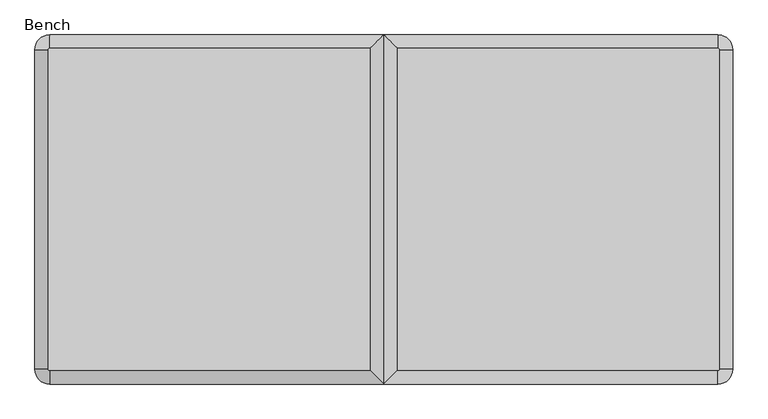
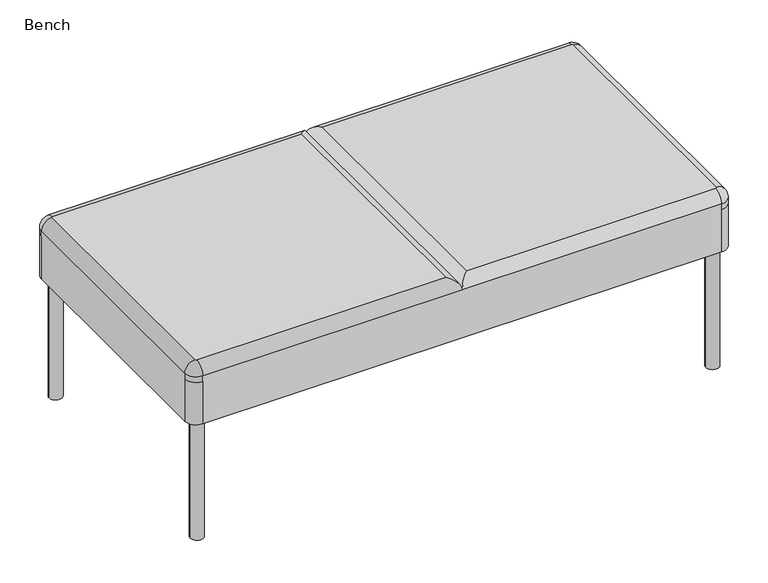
"""IFC4 building model written with IfcOpenShell, lengths in millimetres: furniture geometry, Noora : Bench."""

from ifc_helpers import new_model, si_unit, point, frame, frame_2d, origin, origin_with_axes, place, context, project, spatial, circle_curve, ellipse_curve, trimmed, segment, composite_curve, outline, extrude, source, transform, mapped, element, save
from ifc_brep_helpers import plane_surface, cylinder_surface, revolved_surface, advanced_brep


def bench_e48bfbdb(model_context):
    return source(origin(), model_context, "Body", "SolidModel", [
        advanced_brep(
        [(24.0, 26.0, 431.0), (26.0, 24.0, 431.0), (596.0, 24.0, 431.0), (596.0, 596.0, 431.0), (26.0, 596.0, 431.0), (24.0, 594.0, 431.0), (0.0, 26.0, 407.0), (26.0, 0.0, 407.0), (620.0, 0.0, 407.0), (620.0, 620.0, 407.0), (26.0, 620.0, 407.0), (0.0, 594.0, 407.0), (1214.0, 620.0, 291.0), (1240.0, 594.0, 291.0), (1240.0, 26.0, 291.0), (1214.0, 0.0, 291.0), (26.0, 0.0, 291.0), (0.0, 26.0, 291.0), (0.0, 594.0, 291.0), (26.0, 620.0, 291.0), (0.0, 594.0, 393.0), (26.0, 620.0, 393.0), (0.0, 26.0, 393.0), (26.0, 0.0, 393.0), (1240.0, 26.0, 393.0), (1214.0, 0.0, 393.0), (1214.0, 620.0, 393.0), (1240.0, 594.0, 393.0), (1214.0, 24.0, 431.0), (1216.0, 26.0, 431.0), (1216.0, 594.0, 431.0), (1214.0, 596.0, 431.0), (644.0, 596.0, 431.0), (644.0, 24.0, 431.0), (1240.0, 26.0, 407.0), (1214.0, 0.0, 407.0), (1214.0, 620.0, 407.0), (1240.0, 594.0, 407.0)],
        [
            (0, 1, circle_curve(frame((26.0, 26.0, 431.0), z_axis=(0.0, 0.0, 1.0), x_axis=(-1.0, 0.0, 0.0)), 2.0)),
            (1, 2),
            (2, 3),
            (3, 4),
            (4, 5, circle_curve(frame((26.0, 594.0, 431.0), z_axis=(0.0, 0.0, 1.0), x_axis=(0.0, 1.0, 0.0)), 2.0)),
            (5, 0),
            (6, 7, circle_curve(frame((26.0, 26.0, 407.0), z_axis=(0.0, 0.0, 1.0), x_axis=(-1.0, 0.0, 0.0)), 26.0)),
            (7, 1, circle_curve(frame((26.0, 24.0, 407.0), z_axis=(-1.0, 0.0, 0.0), x_axis=(0.0, 1.0, 0.0)), 24.0)),
            (0, 6, circle_curve(frame((24.0, 26.0, 407.0), z_axis=(0.0, -1.0, 0.0), x_axis=(1.0, 0.0, 0.0)), 24.0)),
            (7, 8),
            (8, 2, ellipse_curve(frame((596.0, 24.0, 407.0), z_axis=(-0.7071067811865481, -0.7071067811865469, 0.0), x_axis=(-0.7071067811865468, 0.7071067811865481, 0.0)), 33.9411255, 24.0)),
            (8, 9),
            (9, 3, ellipse_curve(frame((596.0, 596.0, 407.0), z_axis=(0.7071067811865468, -0.7071067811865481, 0.0), x_axis=(-0.7071067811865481, -0.7071067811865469, 0.0)), 33.9411255, 24.0)),
            (9, 10),
            (10, 4, circle_curve(frame((26.0, 596.0, 407.0), z_axis=(1.0, 0.0, 0.0), x_axis=(0.0, -1.0, 0.0)), 24.0)),
            (10, 11, circle_curve(frame((26.0, 594.0, 407.0), z_axis=(0.0, 0.0, 1.0), x_axis=(0.0, 1.0, 0.0)), 26.0)),
            (11, 5, circle_curve(frame((24.0, 594.0, 407.0), z_axis=(0.0, 1.0, 0.0), x_axis=(1.0, 0.0, 0.0)), 24.0)),
            (11, 6),
            (12, 13, circle_curve(frame((1214.0, 594.0, 291.0), z_axis=(0.0, 0.0, -1.0), x_axis=(1.0, 0.0, 0.0)), 26.0)),
            (13, 14),
            (14, 15, circle_curve(frame((1214.0, 26.0, 291.0), z_axis=(0.0, 0.0, -1.0), x_axis=(1.0, 0.0, 0.0)), 26.0)),
            (15, 16),
            (16, 17, circle_curve(frame((26.0, 26.0, 291.0), z_axis=(0.0, 0.0, -1.0), x_axis=(1.0, 0.0, 0.0)), 26.0)),
            (17, 18),
            (18, 19, circle_curve(frame((26.0, 594.0, 291.0), z_axis=(0.0, 0.0, -1.0), x_axis=(1.0, 0.0, 0.0)), 26.0)),
            (19, 12),
            (18, 20),
            (20, 21, circle_curve(frame((26.0, 594.0, 393.0), z_axis=(0.0, 0.0, -1.0), x_axis=(1.0, 0.0, 0.0)), 26.0)),
            (21, 19),
            (17, 22),
            (22, 6),
            (11, 20),
            (16, 23),
            (23, 22, circle_curve(frame((26.0, 26.0, 393.0), z_axis=(0.0, 0.0, -1.0), x_axis=(1.0, 0.0, 0.0)), 26.0)),
            (14, 24),
            (24, 25, circle_curve(frame((1214.0, 26.0, 393.0), z_axis=(0.0, 0.0, -1.0), x_axis=(1.0, 0.0, 0.0)), 26.0)),
            (25, 15),
            (12, 26),
            (26, 27, circle_curve(frame((1214.0, 594.0, 393.0), z_axis=(0.0, 0.0, -1.0), x_axis=(1.0, 0.0, 0.0)), 26.0)),
            (27, 13),
            (28, 29, circle_curve(frame((1214.0, 26.0, 431.0), z_axis=(0.0, 0.0, 1.0), x_axis=(1.0, 0.0, 0.0)), 2.0)),
            (29, 30),
            (30, 31, circle_curve(frame((1214.0, 594.0, 431.0), z_axis=(0.0, 0.0, 1.0), x_axis=(0.0, 1.0, 0.0)), 2.0)),
            (31, 32),
            (32, 33),
            (33, 28),
            (24, 34),
            (34, 35, circle_curve(frame((1214.0, 26.0, 407.0), z_axis=(0.0, 0.0, -1.0), x_axis=(1.0, 0.0, 0.0)), 26.0)),
            (35, 25),
            (34, 29, circle_curve(frame((1216.0, 26.0, 407.0), z_axis=(0.0, -1.0, 0.0), x_axis=(-1.0, 0.0, 0.0)), 24.0)),
            (28, 35, circle_curve(frame((1214.0, 24.0, 407.0), z_axis=(1.0, 0.0, 0.0), x_axis=(0.0, 1.0, 0.0)), 24.0)),
            (35, 8),
            (7, 23),
            (33, 8, ellipse_curve(frame((644.0, 24.0, 407.0), z_axis=(0.7071067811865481, -0.7071067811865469, 0.0), x_axis=(0.7071067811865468, 0.7071067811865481, 0.0)), 33.9411255, 24.0)),
            (32, 9, ellipse_curve(frame((644.0, 596.0, 407.0), z_axis=(-0.7071067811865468, -0.7071067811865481, 0.0), x_axis=(0.7071067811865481, -0.7071067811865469, 0.0)), 33.9411255, 24.0)),
            (9, 36),
            (36, 26),
            (21, 10),
            (31, 36, circle_curve(frame((1214.0, 596.0, 407.0), z_axis=(-1.0, 0.0, 0.0), x_axis=(0.0, -1.0, 0.0)), 24.0)),
            (36, 37, circle_curve(frame((1214.0, 594.0, 407.0), z_axis=(0.0, 0.0, -1.0), x_axis=(0.0, 1.0, 0.0)), 26.0)),
            (37, 27),
            (30, 37, circle_curve(frame((1216.0, 594.0, 407.0), z_axis=(0.0, 1.0, 0.0), x_axis=(-1.0, 0.0, 0.0)), 24.0)),
            (37, 34),
        ],
        [
            plane_surface(frame((24.0, 40.0, 431.0), z_axis=(0.0, 0.0, 1.0), x_axis=(0.0, -1.0, 0.0))),
            revolved_surface(trimmed(ellipse_curve(frame((24.0, 26.0, 407.0), z_axis=(0.0, 1.0, 0.0), x_axis=(1.0, 0.0, 0.0)), 24.0, 24.0), [point((0.0, 26.0, 407.0))], [point((24.0, 26.0, 431.0))], True, "CARTESIAN"), (26.0, 26.0, 393.0), (0.0, 0.0, 1.0)),
            cylinder_surface(frame((26.0, 24.0, 407.0), z_axis=(-1.0, 0.0, 0.0), x_axis=(0.0, 1.0, 0.0)), 24.0),
            cylinder_surface(frame((596.0, 0.0, 407.0), z_axis=(0.0, -1.0, 0.0), x_axis=(-1.0, 0.0, 0.0)), 24.0),
            cylinder_surface(frame((620.0, 596.0, 407.0), z_axis=(1.0, 0.0, 0.0), x_axis=(0.0, -1.0, 0.0)), 24.0),
            revolved_surface(trimmed(ellipse_curve(frame((26.0, 596.0, 407.0), z_axis=(1.0, 0.0, 0.0), x_axis=(0.0, -1.0, 0.0)), 24.0, 24.0), [point((26.0, 620.0, 407.0))], [point((26.0, 596.0, 431.0))], True, "CARTESIAN"), (26.0, 594.0, 393.0), (0.0, 0.0, 1.0)),
            cylinder_surface(frame((24.0, 594.0, 407.0), z_axis=(0.0, 1.0, 0.0), x_axis=(1.0, 0.0, 0.0)), 24.0),
            plane_surface(frame((42.5804246, 620.0, 291.0), z_axis=(0.0, 0.0, -1.0), x_axis=(1.0, 0.0, 0.0))),
            cylinder_surface(frame((26.0, 594.0, 291.0), z_axis=(0.0, 0.0, 1.0), x_axis=(1.0, 0.0, 0.0)), 26.0),
            plane_surface(frame((0.0, 594.0, 393.0), z_axis=(-1.0, 0.0, 0.0), x_axis=(0.0, 0.0, -1.0))),
            cylinder_surface(frame((26.0, 26.0, 291.0), z_axis=(0.0, 0.0, 1.0), x_axis=(1.0, 0.0, 0.0)), 26.0),
            cylinder_surface(frame((1214.0, 26.0, 291.0), z_axis=(0.0, 0.0, 1.0), x_axis=(1.0, 0.0, 0.0)), 26.0),
            cylinder_surface(frame((1214.0, 594.0, 291.0), z_axis=(0.0, 0.0, 1.0), x_axis=(1.0, 0.0, 0.0)), 26.0),
            plane_surface(frame((1214.0, 596.0, 431.0), z_axis=(0.0, 0.0, 1.0), x_axis=(-1.0, 0.0, 0.0))),
            cylinder_surface(frame((1214.0, 26.0, 393.0), z_axis=(0.0, 0.0, -1.0), x_axis=(1.0, 0.0, 0.0)), 26.0),
            revolved_surface(trimmed(ellipse_curve(frame((1216.0, 26.0, 407.0), z_axis=(0.0, 1.0, 0.0), x_axis=(-1.0, 0.0, 0.0)), 24.0, 24.0), [point((1216.0, 26.0, 431.0))], [point((1240.0, 26.0, 407.0))], True, "CARTESIAN"), (1214.0, 26.0, 393.0), (0.0, 0.0, -1.0)),
            plane_surface(frame((1214.0, 0.0, 407.0), z_axis=(0.0, -1.0, 0.0), x_axis=(-1.0, 0.0, 0.0))),
            cylinder_surface(frame((1214.0, 24.0, 407.0), z_axis=(1.0, 0.0, 0.0), x_axis=(0.0, 1.0, 0.0)), 24.0),
            cylinder_surface(frame((644.0, 0.0, 407.0), z_axis=(0.0, -1.0, 0.0), x_axis=(1.0, 0.0, 0.0)), 24.0),
            plane_surface(frame((620.0, 620.0, 407.0), z_axis=(0.0, 1.0, 0.0), x_axis=(1.0, 0.0, 0.0))),
            cylinder_surface(frame((620.0, 596.0, 407.0), z_axis=(-1.0, 0.0, 0.0), x_axis=(0.0, -1.0, 0.0)), 24.0),
            cylinder_surface(frame((1214.0, 594.0, 393.0), z_axis=(0.0, 0.0, -1.0), x_axis=(0.0, 1.0, 0.0)), 26.0),
            revolved_surface(trimmed(ellipse_curve(frame((1214.0, 596.0, 407.0), z_axis=(-1.0, 0.0, 0.0), x_axis=(0.0, -1.0, 0.0)), 24.0, 24.0), [point((1214.0, 596.0, 431.0))], [point((1214.0, 620.0, 407.0))], True, "CARTESIAN"), (1214.0, 594.0, 393.0), (0.0, 0.0, -1.0)),
            plane_surface(frame((1240.0, 594.0, 407.0), z_axis=(1.0, 0.0, 0.0), x_axis=(0.0, -1.0, 0.0))),
            cylinder_surface(frame((1216.0, 594.0, 407.0), z_axis=(0.0, 1.0, 0.0), x_axis=(-1.0, 0.0, 0.0)), 24.0),
            cylinder_surface(frame((26.0, 26.0, 393.0), z_axis=(0.0, 0.0, 1.0), x_axis=(-1.0, 0.0, 0.0)), 26.0),
            cylinder_surface(frame((26.0, 594.0, 393.0), z_axis=(0.0, 0.0, 1.0), x_axis=(0.0, 1.0, 0.0)), 26.0),
        ],
        [
            (0, [[1, 2, 3, 4, 5, 6]]),
            (1, [[7, 8, -1, 9]]),
            (2, [[-8, 10, 11, -2]]),
            (3, [[-11, 12, 13, -3]]),
            (4, [[-13, 14, 15, -4]]),
            (5, [[-15, 16, 17, -5]]),
            (6, [[-9, -6, -17, 18]]),
            (7, [[19, 20, 21, 22, 23, 24, 25, 26]]),
            (8, [[-25, 27, 28, 29]]),
            (9, [[-24, 30, 31, -18, 32, -27]]),
            (10, [[-23, 33, 34, -30]]),
            (11, [[-21, 35, 36, 37]]),
            (12, [[-19, 38, 39, 40]]),
            (13, [[41, 42, 43, 44, 45, 46]]),
            (14, [[47, 48, 49, -36]]),
            (15, [[-48, 50, -41, 51]]),
            (16, [[-49, 52, -10, 53, -33, -22, -37]]),
            (17, [[-51, -46, 54, -52]]),
            (18, [[-54, -45, 55, -12]]),
            (19, [[56, 57, -38, -26, -29, 58, -14]]),
            (20, [[-55, -44, 59, -56]]),
            (21, [[-57, 60, 61, -39]]),
            (22, [[-59, -43, 62, -60]]),
            (23, [[-47, -35, -20, -40, -61, 63]]),
            (24, [[-50, -63, -62, -42]]),
            (25, [[-7, -31, -34, -53]]),
            (26, [[-58, -28, -32, -16]]),
        ],
    ),
        extrude(outline(composite_curve([segment(trimmed(circle_curve(frame_2d((30.0, 590.0)), 15.0), [point((15.0, 590.0))], [point((45.0, 590.0))], False, "CARTESIAN"), True, "CONTINUOUS"), segment(trimmed(circle_curve(frame_2d((30.0, 590.0)), 15.0), [point((45.0, 590.0))], [point((15.0, 590.0))], False, "CARTESIAN"), True, "CONTINUOUS")], self_intersect=False)), origin_with_axes(), (0.0, 0.0, 1.0), 290.0),
        extrude(outline(composite_curve([segment(trimmed(circle_curve(frame_2d((30.0, 30.0)), 15.0), [point((15.0, 30.0))], [point((45.0, 30.0))], False, "CARTESIAN"), True, "CONTINUOUS"), segment(trimmed(circle_curve(frame_2d((30.0, 30.0)), 15.0), [point((45.0, 30.0))], [point((15.0, 30.0))], False, "CARTESIAN"), True, "CONTINUOUS")], self_intersect=False)), origin_with_axes(), (0.0, 0.0, 1.0), 290.0),
        extrude(outline(composite_curve([segment(trimmed(circle_curve(frame_2d((1210.0, 30.0)), 15.0), [point((1195.0, 30.0))], [point((1225.0, 30.0))], False, "CARTESIAN"), True, "CONTINUOUS"), segment(trimmed(circle_curve(frame_2d((1210.0, 30.0)), 15.0), [point((1225.0, 30.0))], [point((1195.0, 30.0))], False, "CARTESIAN"), True, "CONTINUOUS")], self_intersect=False)), origin_with_axes(), (0.0, 0.0, 1.0), 290.0),
        extrude(outline(composite_curve([segment(trimmed(circle_curve(frame_2d((1210.0, 590.0)), 15.0), [point((1195.0, 590.0))], [point((1225.0, 590.0))], False, "CARTESIAN"), True, "CONTINUOUS"), segment(trimmed(circle_curve(frame_2d((1210.0, 590.0)), 15.0), [point((1225.0, 590.0))], [point((1195.0, 590.0))], False, "CARTESIAN"), True, "CONTINUOUS")], self_intersect=False)), origin_with_axes(), (0.0, 0.0, 1.0), 290.0),
    ])


if __name__ == "__main__":
    model = new_model("IFC4")
    model_context = context("Model", 3, world=origin())
    ifc_project = project(units=[si_unit("LENGTHUNIT", "METRE", prefix="MILLI")], contexts=[model_context])
    site = spatial("IfcSite", under=ifc_project)
    building = spatial("IfcBuilding", under=site)
    placement = place(None, origin())
    bench_shape = bench_e48bfbdb(model_context)
    element("IfcFurniture", 1, ObjectType="Noora : Bench", at=placement, inside=building, context=model_context, shape_type="MappedRepresentation", body=[
        mapped(bench_shape, transform((0.0, 0.0, 0.0), x_axis=(1.0, 0.0, 0.0), y_axis=(0.0, 1.0, 0.0), z_axis=(0.0, 0.0, 1.0))),
    ])
    save(model, "model.ifc")
